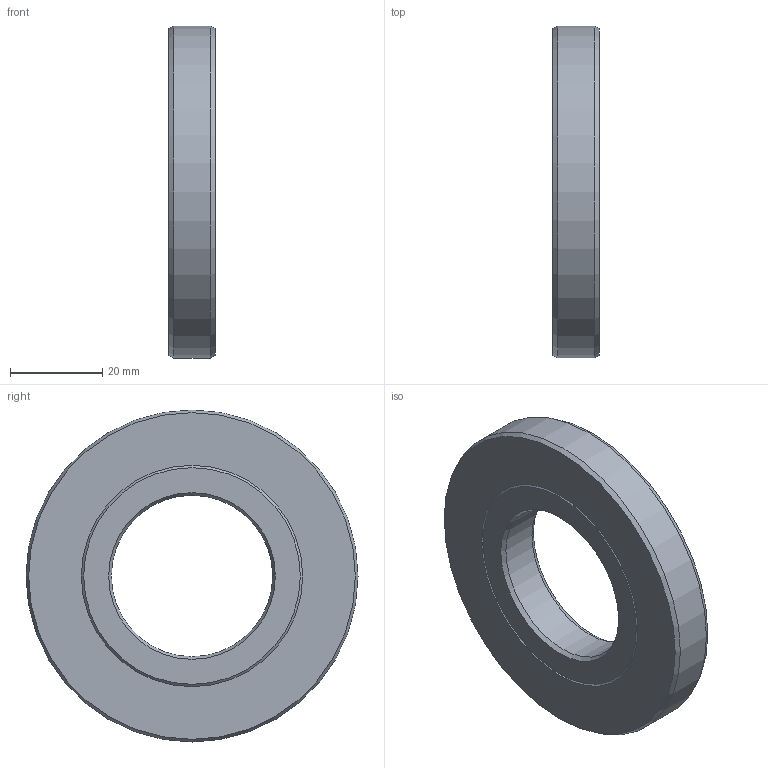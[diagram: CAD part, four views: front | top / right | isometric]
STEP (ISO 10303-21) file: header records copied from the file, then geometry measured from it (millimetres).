
FILE_DESCRIPTION(/* description */ (''),/* implementation_level */ '2;1');
FILE_NAME(/* name */ '301824 SA 35x72x10.stp',/* time_stamp */ '2016-12-16T15:20:43+01:00',/* author */ (''),/* organization */ (''),/* preprocessor_version */ 'ST-DEVELOPER v15',/* originating_system */ 'SIEMENS PLM Software NX 8.5',/* authorisation */ '');
FILE_SCHEMA (('CONFIG_CONTROL_DESIGN'));
Length unit declared in the file: millimetre
Products named in the file (1): ATE0000144_01
Bounding box: 10 x 72 x 72 mm (x, y, z)
Volume: 29930.4 mm3; surface area: 13584.5 mm2
Topology: 2 solids, 2 shells, 18 faces, 37 edges, 23 vertices
Faces by surface type: cone 10, plane 5, cylinder 3
Full cylindrical faces by diameter (mm): 35 x1, 72 x1
Entity records: 492 total; most frequent: DIRECTION 76, CARTESIAN_POINT 74, ORIENTED_EDGE 46, AXIS2_PLACEMENT_3D 38, EDGE_LOOP 33, FACE_BOUND 30, EDGE_CURVE 23, VERTEX_POINT 20
